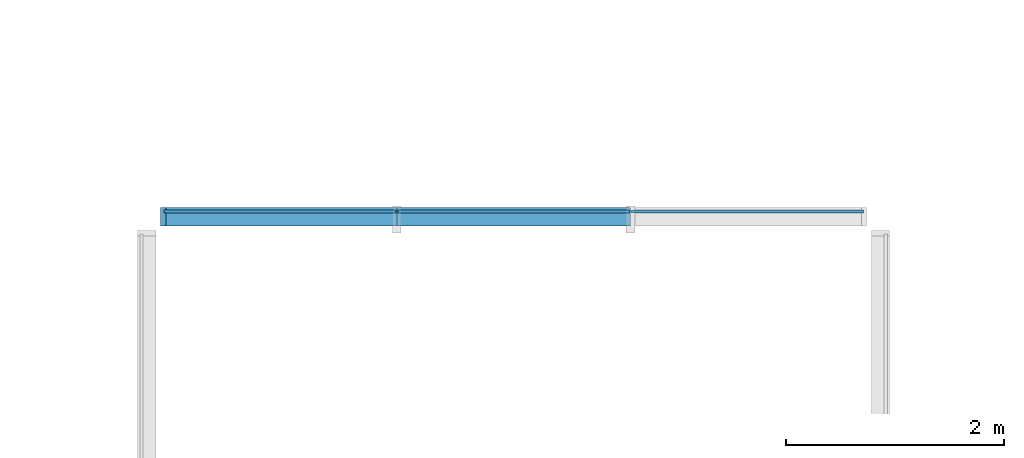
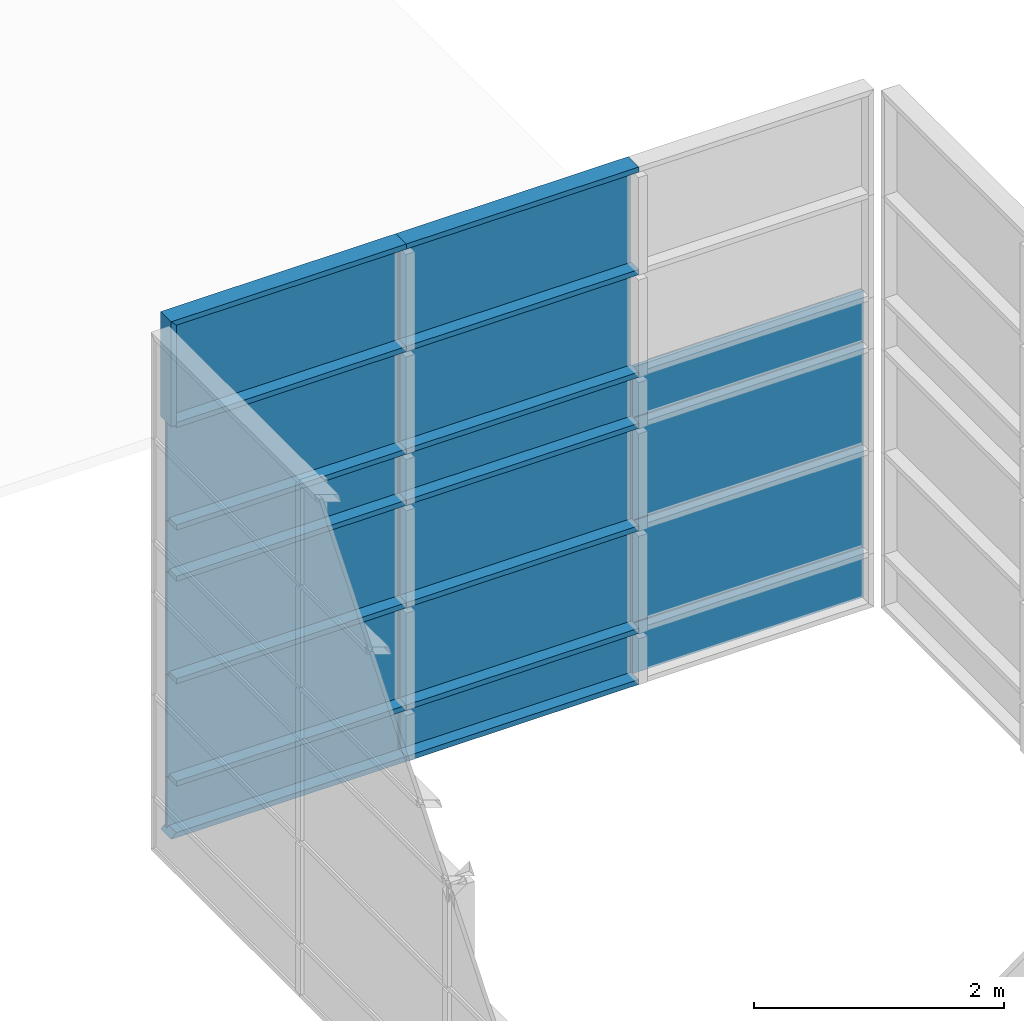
# One storey, part 9 of 19: 31 building element parts, 1 element without a shape of its own.
"""IFC4 building model written with IfcOpenShell, lengths in millimetres."""

from ifc_helpers import new_model, entity, si_unit, converted_unit, derived_unit, direction, frame, origin_with_axes, place, context, subcontext, project, spatial, triangles, material, element, aggregate, save


model = new_model("IFC4")

# Units and contexts
model_context = context("Model", 3, precision=1e-05, world=origin_with_axes(), true_north=direction((0.0, 1.0)))
body_context = subcontext(model_context, "Body", "Model", "MODEL_VIEW")
ifc_project = project(units=[si_unit("LENGTHUNIT", "METRE", prefix="MILLI"), si_unit("AREAUNIT", "SQUARE_METRE"), si_unit("VOLUMEUNIT", "CUBIC_METRE"), converted_unit("PLANEANGLEUNIT", "DEGREE", entity("IfcLengthMeasure", 0.017453), si_unit("PLANEANGLEUNIT", "RADIAN"), dimensions=[0, 0, 0, 0, 0, 0, 0]), si_unit("SOLIDANGLEUNIT", "STERADIAN"), si_unit("MASSUNIT", "GRAM"), si_unit("TIMEUNIT", "SECOND"), si_unit("THERMODYNAMICTEMPERATUREUNIT", "DEGREE_CELSIUS"), si_unit("LUMINOUSINTENSITYUNIT", "LUMEN"), si_unit("POWERUNIT", "WATT"), derived_unit("THERMALTRANSMITTANCEUNIT", [(si_unit("POWERUNIT", "WATT"), 1), (si_unit("THERMODYNAMICTEMPERATUREUNIT", "KELVIN"), -1), (si_unit("AREAUNIT", "SQUARE_METRE"), -1)])], contexts=[model_context])

# Site, building, storey
site_placement = place(None, origin_with_axes())
site = spatial("IfcSite", under=ifc_project, at=site_placement, Name="Default Site", CompositionType="ELEMENT")
building_placement = place(site_placement, origin_with_axes())
building = spatial("IfcBuilding", under=site, at=building_placement, Name="Default Building", CompositionType="ELEMENT")
storey_placement = place(building_placement, frame((0.0, 0.0, 3000.0), z_axis=(0.0, 0.0, 1.0), x_axis=(1.0, 0.0, 0.0)))
storey = spatial("IfcBuildingStorey", under=building, at=storey_placement, Name="EG - Story", CompositionType="ELEMENT", Elevation=3000.0)

# Curtain wall, building element parts
curtain_wall_placement = place(storey_placement, origin_with_axes())
curtain_wall = element("IfcCurtainWall", 1, at=curtain_wall_placement, inside=storey, Name="Fassade-012", PredefinedType="NOTDEFINED")
ifc_material_1 = material(Name="Normalglas")
building_element_part_1_placement = place(curtain_wall_placement, frame((74946.430489, -42520.999636, -4.5e-05), z_axis=(0.0, 0.0, 1.0), x_axis=(1.0, 0.0, 0.0)))
building_element_part_1 = element("IfcBuildingElementPart", 2, at=building_element_part_1_placement, material=ifc_material_1, Name="Normalglas", PredefinedType="NOTDEFINED", context=body_context, shape_type="Tessellation", body=[
    triangles([(-1063.007, -14.999, 495.0), (1068.008, -14.999, 495.0), (1068.008, 15.0, 495.0), (-1063.007, 15.0, 495.0), (-1063.007, -14.999, 5.0), (1068.008, -14.999, 5.0), (1068.008, 15.0, 5.0), (-1063.007, 15.0, 5.0)], [[1, 2, 3], [1, 3, 4], [1, 5, 6], [1, 6, 2], [2, 6, 7], [2, 7, 3], [4, 3, 7], [4, 7, 8], [5, 1, 4], [5, 4, 8], [6, 5, 8], [6, 8, 7]], closed=False),
])
building_element_part_2_placement = place(curtain_wall_placement, frame((74946.430489, -42520.999636, -4.5e-05), z_axis=(0.0, 0.0, 1.0), x_axis=(1.0, 0.0, 0.0)))
building_element_part_2 = element("IfcBuildingElementPart", 3, at=building_element_part_2_placement, material=ifc_material_1, Name="Normalglas", PredefinedType="NOTDEFINED", context=body_context, shape_type="Tessellation", body=[
    triangles([(-3209.023, -14.999, 495.0), (-1083.007, -14.999, 495.0), (-1083.007, 15.0, 495.0), (-3209.023, 15.0, 495.0), (-3209.023, -14.999, 5.0), (-1083.007, -14.999, 5.0), (-1083.007, 15.0, 5.0), (-3209.023, 15.0, 5.0)], [[1, 2, 3], [1, 3, 4], [1, 5, 6], [1, 6, 2], [2, 6, 7], [2, 7, 3], [4, 3, 7], [4, 7, 8], [5, 1, 4], [5, 4, 8], [6, 5, 8], [6, 8, 7]], closed=False),
])
building_element_part_3_placement = place(curtain_wall_placement, frame((74946.430489, -42520.999636, -4.5e-05), z_axis=(0.0, 0.0, 1.0), x_axis=(1.0, 0.0, 0.0)))
building_element_part_3 = element("IfcBuildingElementPart", 4, at=building_element_part_3_placement, material=ifc_material_1, Name="Normalglas", PredefinedType="NOTDEFINED", context=body_context, shape_type="Tessellation", body=[
    triangles([(-5360.038, -14.999, 495.0), (-3229.022, -14.999, 495.0), (-3229.022, 15.0, 495.0), (-5360.038, 15.0, 495.0), (-5360.038, -14.999, 5.0), (-3229.022, -14.999, 5.0), (-3229.022, 15.0, 5.0), (-5360.038, 15.0, 5.0)], [[1, 2, 3], [1, 3, 4], [1, 5, 6], [1, 6, 2], [2, 6, 7], [2, 7, 3], [4, 3, 7], [4, 7, 8], [5, 1, 4], [5, 4, 8], [6, 5, 8], [6, 8, 7]], closed=False),
])
building_element_part_4_placement = place(curtain_wall_placement, frame((74946.430489, -42520.999636, -4.5e-05), z_axis=(0.0, 0.0, 1.0), x_axis=(1.0, 0.0, 0.0)))
building_element_part_4 = element("IfcBuildingElementPart", 5, at=building_element_part_4_placement, material=ifc_material_1, Name="Normalglas", PredefinedType="NOTDEFINED", context=body_context, shape_type="Tessellation", body=[
    triangles([(-1063.007, -14.999, 1495.0), (1068.008, -14.999, 1495.0), (1068.008, 15.0, 1495.0), (-1063.007, 15.0, 1495.0), (-1063.007, -14.999, 505.0), (1068.008, -14.999, 505.0), (1068.008, 15.0, 505.0), (-1063.007, 15.0, 505.0)], [[1, 2, 3], [1, 3, 4], [1, 5, 6], [1, 6, 2], [2, 6, 7], [2, 7, 3], [4, 3, 7], [4, 7, 8], [5, 1, 4], [5, 4, 8], [6, 5, 8], [6, 8, 7]], closed=False),
])
building_element_part_5_placement = place(curtain_wall_placement, frame((74946.430489, -42520.999636, -4.5e-05), z_axis=(0.0, 0.0, 1.0), x_axis=(1.0, 0.0, 0.0)))
building_element_part_5 = element("IfcBuildingElementPart", 6, at=building_element_part_5_placement, material=ifc_material_1, Name="Normalglas", PredefinedType="NOTDEFINED", context=body_context, shape_type="Tessellation", body=[
    triangles([(-3209.023, -14.999, 1495.0), (-1083.007, -14.999, 1495.0), (-1083.007, 15.0, 1495.0), (-3209.023, 15.0, 1495.0), (-3209.023, -14.999, 505.0), (-1083.007, -14.999, 505.0), (-1083.007, 15.0, 505.0), (-3209.023, 15.0, 505.0)], [[1, 2, 3], [1, 3, 4], [1, 5, 6], [1, 6, 2], [2, 6, 7], [2, 7, 3], [4, 3, 7], [4, 7, 8], [5, 1, 4], [5, 4, 8], [6, 5, 8], [6, 8, 7]], closed=False),
])
building_element_part_6_placement = place(curtain_wall_placement, frame((74946.430489, -42520.999636, -4.5e-05), z_axis=(0.0, 0.0, 1.0), x_axis=(1.0, 0.0, 0.0)))
building_element_part_6 = element("IfcBuildingElementPart", 7, at=building_element_part_6_placement, material=ifc_material_1, Name="Normalglas", PredefinedType="NOTDEFINED", context=body_context, shape_type="Tessellation", body=[
    triangles([(-5360.038, -14.999, 1495.0), (-3229.022, -14.999, 1495.0), (-3229.022, 15.0, 1495.0), (-5360.038, 15.0, 1495.0), (-5360.038, -14.999, 505.0), (-3229.022, -14.999, 505.0), (-3229.022, 15.0, 505.0), (-5360.038, 15.0, 505.0)], [[1, 2, 3], [1, 3, 4], [1, 5, 6], [1, 6, 2], [2, 6, 7], [2, 7, 3], [4, 3, 7], [4, 7, 8], [5, 1, 4], [5, 4, 8], [6, 5, 8], [6, 8, 7]], closed=False),
])
building_element_part_7_placement = place(curtain_wall_placement, frame((74946.430489, -42520.999636, -4.5e-05), z_axis=(0.0, 0.0, 1.0), x_axis=(1.0, 0.0, 0.0)))
building_element_part_7 = element("IfcBuildingElementPart", 8, at=building_element_part_7_placement, material=ifc_material_1, Name="Normalglas", PredefinedType="NOTDEFINED", context=body_context, shape_type="Tessellation", body=[
    triangles([(-1063.007, -14.999, 2495.0), (1068.008, -14.999, 2495.0), (1068.008, 15.0, 2495.0), (-1063.007, 15.0, 2495.0), (-1063.007, -14.999, 1505.0), (1068.008, -14.999, 1505.0), (1068.008, 15.0, 1505.0), (-1063.007, 15.0, 1505.0)], [[1, 2, 3], [1, 3, 4], [1, 5, 6], [1, 6, 2], [2, 6, 7], [2, 7, 3], [4, 3, 7], [4, 7, 8], [5, 1, 4], [5, 4, 8], [6, 5, 8], [6, 8, 7]], closed=False),
])
building_element_part_8_placement = place(curtain_wall_placement, frame((74946.430489, -42520.999636, -4.5e-05), z_axis=(0.0, 0.0, 1.0), x_axis=(1.0, 0.0, 0.0)))
building_element_part_8 = element("IfcBuildingElementPart", 9, at=building_element_part_8_placement, material=ifc_material_1, Name="Normalglas", PredefinedType="NOTDEFINED", context=body_context, shape_type="Tessellation", body=[
    triangles([(-3209.023, -14.999, 2495.0), (-1083.007, -14.999, 2495.0), (-1083.007, 15.0, 2495.0), (-3209.023, 15.0, 2495.0), (-3209.023, -14.999, 1505.0), (-1083.007, -14.999, 1505.0), (-1083.007, 15.0, 1505.0), (-3209.023, 15.0, 1505.0)], [[1, 2, 3], [1, 3, 4], [1, 5, 6], [1, 6, 2], [2, 6, 7], [2, 7, 3], [4, 3, 7], [4, 7, 8], [5, 1, 4], [5, 4, 8], [6, 5, 8], [6, 8, 7]], closed=False),
])
building_element_part_9_placement = place(curtain_wall_placement, frame((74946.430489, -42520.999636, -4.5e-05), z_axis=(0.0, 0.0, 1.0), x_axis=(1.0, 0.0, 0.0)))
building_element_part_9 = element("IfcBuildingElementPart", 10, at=building_element_part_9_placement, material=ifc_material_1, Name="Normalglas", PredefinedType="NOTDEFINED", context=body_context, shape_type="Tessellation", body=[
    triangles([(-5360.038, -14.999, 2495.0), (-3229.022, -14.999, 2495.0), (-3229.022, 15.0, 2495.0), (-5360.038, 15.0, 2495.0), (-5360.038, -14.999, 1505.0), (-3229.022, -14.999, 1505.0), (-3229.022, 15.0, 1505.0), (-5360.038, 15.0, 1505.0)], [[1, 2, 3], [1, 3, 4], [1, 5, 6], [1, 6, 2], [2, 6, 7], [2, 7, 3], [4, 3, 7], [4, 7, 8], [5, 1, 4], [5, 4, 8], [6, 5, 8], [6, 8, 7]], closed=False),
])
building_element_part_10_placement = place(curtain_wall_placement, frame((74946.430489, -42520.999636, -4.5e-05), z_axis=(0.0, 0.0, 1.0), x_axis=(1.0, 0.0, 0.0)))
building_element_part_10 = element("IfcBuildingElementPart", 11, at=building_element_part_10_placement, material=ifc_material_1, Name="Normalglas", PredefinedType="NOTDEFINED", context=body_context, shape_type="Tessellation", body=[
    triangles([(-1063.007, -14.999, 2995.0), (1068.008, -14.999, 2995.0), (1068.008, 15.0, 2995.0), (-1063.007, 15.0, 2995.0), (-1063.007, -14.999, 2505.0), (1068.008, -14.999, 2505.0), (1068.008, 15.0, 2505.0), (-1063.007, 15.0, 2505.0)], [[1, 2, 3], [1, 3, 4], [1, 5, 6], [1, 6, 2], [2, 6, 7], [2, 7, 3], [4, 3, 7], [4, 7, 8], [5, 1, 4], [5, 4, 8], [6, 5, 8], [6, 8, 7]], closed=False),
])
building_element_part_11_placement = place(curtain_wall_placement, frame((74946.430489, -42520.999636, -4.5e-05), z_axis=(0.0, 0.0, 1.0), x_axis=(1.0, 0.0, 0.0)))
building_element_part_11 = element("IfcBuildingElementPart", 12, at=building_element_part_11_placement, material=ifc_material_1, Name="Normalglas", PredefinedType="NOTDEFINED", context=body_context, shape_type="Tessellation", body=[
    triangles([(-3209.023, -14.999, 2995.0), (-1083.007, -14.999, 2995.0), (-1083.007, 15.0, 2995.0), (-3209.023, 15.0, 2995.0), (-3209.023, -14.999, 2505.0), (-1083.007, -14.999, 2505.0), (-1083.007, 15.0, 2505.0), (-3209.023, 15.0, 2505.0)], [[1, 2, 3], [1, 3, 4], [1, 5, 6], [1, 6, 2], [2, 6, 7], [2, 7, 3], [4, 3, 7], [4, 7, 8], [5, 1, 4], [5, 4, 8], [6, 5, 8], [6, 8, 7]], closed=False),
])
building_element_part_12_placement = place(curtain_wall_placement, frame((74946.430489, -42520.999636, -4.5e-05), z_axis=(0.0, 0.0, 1.0), x_axis=(1.0, 0.0, 0.0)))
building_element_part_12 = element("IfcBuildingElementPart", 13, at=building_element_part_12_placement, material=ifc_material_1, Name="Normalglas", PredefinedType="NOTDEFINED", context=body_context, shape_type="Tessellation", body=[
    triangles([(-5360.038, -14.999, 2995.0), (-3229.022, -14.999, 2995.0), (-3229.022, 15.0, 2995.0), (-5360.038, 15.0, 2995.0), (-5360.038, -14.999, 2505.0), (-3229.022, -14.999, 2505.0), (-3229.022, 15.0, 2505.0), (-5360.038, 15.0, 2505.0)], [[1, 2, 3], [1, 3, 4], [1, 5, 6], [1, 6, 2], [2, 6, 7], [2, 7, 3], [4, 3, 7], [4, 7, 8], [5, 1, 4], [5, 4, 8], [6, 5, 8], [6, 8, 7]], closed=False),
])
building_element_part_13_placement = place(curtain_wall_placement, frame((74946.430489, -42520.999636, -4.5e-05), z_axis=(0.0, 0.0, 1.0), x_axis=(1.0, 0.0, 0.0)))
building_element_part_13 = element("IfcBuildingElementPart", 14, at=building_element_part_13_placement, material=ifc_material_1, Name="Normalglas", PredefinedType="NOTDEFINED", context=body_context, shape_type="Tessellation", body=[
    triangles([(-3209.023, -14.999, 3995.0), (-1083.007, -14.999, 3995.0), (-1083.007, 15.0, 3995.0), (-3209.023, 15.0, 3995.0), (-3209.023, -14.999, 3005.0), (-1083.007, -14.999, 3005.0), (-1083.007, 15.0, 3005.0), (-3209.023, 15.0, 3005.0)], [[1, 2, 3], [1, 3, 4], [1, 5, 6], [1, 6, 2], [2, 6, 7], [2, 7, 3], [4, 3, 7], [4, 7, 8], [5, 1, 4], [5, 4, 8], [6, 5, 8], [6, 8, 7]], closed=False),
])
building_element_part_14_placement = place(curtain_wall_placement, frame((74946.430489, -42520.999636, -4.5e-05), z_axis=(0.0, 0.0, 1.0), x_axis=(1.0, 0.0, 0.0)))
building_element_part_14 = element("IfcBuildingElementPart", 15, at=building_element_part_14_placement, material=ifc_material_1, Name="Normalglas", PredefinedType="NOTDEFINED", context=body_context, shape_type="Tessellation", body=[
    triangles([(-5360.038, -14.999, 3995.0), (-3229.022, -14.999, 3995.0), (-3229.022, 15.0, 3995.0), (-5360.038, 15.0, 3995.0), (-5360.038, -14.999, 3005.0), (-3229.022, -14.999, 3005.0), (-3229.022, 15.0, 3005.0), (-5360.038, 15.0, 3005.0)], [[1, 2, 3], [1, 3, 4], [1, 5, 6], [1, 6, 2], [2, 6, 7], [2, 7, 3], [4, 3, 7], [4, 7, 8], [5, 1, 4], [5, 4, 8], [6, 5, 8], [6, 8, 7]], closed=False),
])
building_element_part_15_placement = place(curtain_wall_placement, frame((74946.430489, -42520.999636, -4.5e-05), z_axis=(0.0, 0.0, 1.0), x_axis=(1.0, 0.0, 0.0)))
building_element_part_15 = element("IfcBuildingElementPart", 16, at=building_element_part_15_placement, material=ifc_material_1, Name="Normalglas", PredefinedType="NOTDEFINED", context=body_context, shape_type="Tessellation", body=[
    triangles([(-3209.023, -14.999, 4995.0), (-1083.007, -14.999, 4995.0), (-1083.007, 15.0, 4995.0), (-3209.023, 15.0, 4995.0), (-3209.023, -14.999, 4005.0), (-1083.007, -14.999, 4005.0), (-1083.007, 15.0, 4005.0), (-3209.023, 15.0, 4005.0)], [[1, 2, 3], [1, 3, 4], [1, 5, 6], [1, 6, 2], [2, 6, 7], [2, 7, 3], [4, 3, 7], [4, 7, 8], [5, 1, 4], [5, 4, 8], [6, 5, 8], [6, 8, 7]], closed=False),
])
building_element_part_16_placement = place(curtain_wall_placement, frame((74946.430489, -42520.999636, -4.5e-05), z_axis=(0.0, 0.0, 1.0), x_axis=(1.0, 0.0, 0.0)))
building_element_part_16 = element("IfcBuildingElementPart", 17, at=building_element_part_16_placement, material=ifc_material_1, Name="Normalglas", PredefinedType="NOTDEFINED", context=body_context, shape_type="Tessellation", body=[
    triangles([(-5360.038, -14.999, 4995.0), (-3229.022, -14.999, 4995.0), (-3229.022, 15.0, 4995.0), (-5360.038, 15.0, 4995.0), (-5360.038, -14.999, 4005.0), (-3229.022, -14.999, 4005.0), (-3229.022, 15.0, 4005.0), (-5360.038, 15.0, 4005.0)], [[1, 2, 3], [1, 3, 4], [1, 5, 6], [1, 6, 2], [2, 6, 7], [2, 7, 3], [4, 3, 7], [4, 7, 8], [5, 1, 4], [5, 4, 8], [6, 5, 8], [6, 8, 7]], closed=False),
])
ifc_material_2 = material(Name="Blech")
building_element_part_17_placement = place(curtain_wall_placement, frame((74946.430489, -42520.999636, -4.5e-05), z_axis=(0.0, 0.0, 1.0), x_axis=(1.0, 0.0, 0.0)))
building_element_part_17 = element("IfcBuildingElementPart", 18, at=building_element_part_17_placement, material=ifc_material_2, Name="Blech", PredefinedType="NOTDEFINED", context=body_context, shape_type="Tessellation", body=[
    triangles([(-3219.022, 15.0, 25.0), (-3219.022, 15.0, 5.0), (-3219.022, 35.0, -24.999), (-3219.022, -14.999, 5.0), (-3219.022, -132.999, 25.0), (-3219.022, -14.999, 25.0), (-3219.022, -132.999, -24.999), (-3219.022, 35.0, 25.0), (-1073.007, -14.999, 5.0), (-1073.007, 15.0, 5.0), (-1073.007, 15.0, 25.0), (-1073.007, 35.0, 25.0), (-1073.007, 35.0, -24.999), (-1073.007, -132.999, -24.999), (-1073.007, -132.999, 25.0), (-1073.007, -14.999, 25.0)], [[1, 2, 3], [3, 2, 4], [3, 4, 5], [5, 4, 6], [3, 5, 7], [1, 3, 8], [2, 4, 9], [2, 9, 10], [11, 1, 2], [11, 2, 10], [1, 11, 12], [1, 12, 8], [13, 3, 8], [13, 8, 12], [14, 7, 3], [14, 3, 13], [15, 5, 7], [15, 7, 14], [16, 6, 5], [16, 5, 15], [4, 6, 16], [4, 16, 9], [13, 12, 11], [13, 11, 10], [13, 10, 9], [13, 9, 15], [13, 15, 14], [16, 15, 9]], closed=False),
])
building_element_part_18_placement = place(curtain_wall_placement, frame((74946.430489, -42520.999636, -4.5e-05), z_axis=(0.0, 0.0, 1.0), x_axis=(1.0, 0.0, 0.0)))
building_element_part_18 = element("IfcBuildingElementPart", 19, at=building_element_part_18_placement, material=ifc_material_2, Name="Blech", PredefinedType="NOTDEFINED", context=body_context, shape_type="Tessellation", body=[
    triangles([(-5360.038, 15.0, 5.0), (-5360.038, -14.999, 5.0), (-5390.038, -132.999, -24.999), (-5390.038, 35.0, -24.999), (-5340.038, 35.0, 25.0), (-5340.038, 15.0, 25.0), (-5340.038, -132.999, 25.0), (-5340.038, -14.999, 25.0), (-3219.022, -14.999, 5.0), (-3219.022, 15.0, 5.0), (-3219.022, 15.0, 25.0), (-3219.022, 35.0, 25.0), (-3219.022, 35.0, -24.999), (-3219.022, -132.999, -24.999), (-3219.022, -132.999, 25.0), (-3219.022, -14.999, 25.0)], [[1, 2, 3], [1, 3, 4], [1, 4, 5], [1, 5, 6], [7, 3, 2], [7, 2, 8], [1, 2, 9], [1, 9, 10], [11, 6, 1], [11, 1, 10], [6, 11, 12], [6, 12, 5], [13, 4, 5], [13, 5, 12], [14, 3, 4], [14, 4, 13], [15, 7, 3], [15, 3, 14], [16, 8, 7], [16, 7, 15], [2, 8, 16], [2, 16, 9], [13, 12, 11], [13, 11, 10], [13, 10, 9], [13, 9, 15], [13, 15, 14], [16, 15, 9]], closed=False),
])
building_element_part_19_placement = place(curtain_wall_placement, frame((74946.430489, -42520.999636, -4.5e-05), z_axis=(0.0, 0.0, 1.0), x_axis=(1.0, 0.0, 0.0)))
building_element_part_19 = element("IfcBuildingElementPart", 20, at=building_element_part_19_placement, material=ifc_material_2, Name="Blech", PredefinedType="NOTDEFINED", context=body_context, shape_type="Tessellation", body=[
    triangles([(-3219.022, 35.0, 475.0), (-3219.022, 15.0, 475.0), (-3219.022, 35.0, 525.0), (-3219.022, 15.0, 495.0), (-3219.022, 15.0, 505.0), (-3219.022, -14.999, 495.0), (-3219.022, -14.999, 505.0), (-3219.022, -14.999, 525.0), (-3219.022, -14.999, 475.0), (-3219.022, -132.999, 475.0), (-3219.022, -132.999, 525.0), (-3219.022, 15.0, 525.0), (-1073.007, -14.999, 495.0), (-1073.007, -14.999, 475.0), (-1073.007, -132.999, 475.0), (-1073.007, -132.999, 525.0), (-1073.007, -14.999, 525.0), (-1073.007, -14.999, 505.0), (-1073.007, 15.0, 505.0), (-1073.007, 15.0, 525.0), (-1073.007, 35.0, 525.0), (-1073.007, 35.0, 475.0), (-1073.007, 15.0, 475.0), (-1073.007, 15.0, 495.0)], [[1, 2, 3], [3, 2, 4], [3, 4, 5], [5, 4, 6], [5, 6, 7], [8, 9, 10], [8, 10, 11], [3, 5, 12], [9, 6, 13], [9, 13, 14], [9, 14, 15], [9, 15, 10], [11, 10, 15], [11, 15, 16], [8, 11, 16], [8, 16, 17], [8, 17, 18], [8, 18, 7], [7, 18, 19], [7, 19, 5], [12, 5, 19], [12, 19, 20], [20, 21, 3], [20, 3, 12], [1, 3, 21], [1, 21, 22], [23, 2, 1], [23, 1, 22], [4, 2, 23], [4, 23, 24], [6, 4, 24], [6, 24, 13], [21, 20, 22], [22, 20, 19], [22, 19, 24], [24, 19, 18], [24, 18, 13], [14, 17, 16], [14, 16, 15], [22, 24, 23]], closed=False),
])
building_element_part_20_placement = place(curtain_wall_placement, frame((74946.430489, -42520.999636, -4.5e-05), z_axis=(0.0, 0.0, 1.0), x_axis=(1.0, 0.0, 0.0)))
building_element_part_20 = element("IfcBuildingElementPart", 21, at=building_element_part_20_placement, material=ifc_material_2, Name="Blech", PredefinedType="NOTDEFINED", context=body_context, shape_type="Tessellation", body=[
    triangles([(-5340.038, 35.0, 475.0), (-5340.038, 15.0, 475.0), (-5340.038, 35.0, 525.0), (-5340.038, 15.0, 495.0), (-5340.038, 15.0, 505.0), (-5340.038, -14.999, 495.0), (-5340.038, -14.999, 505.0), (-5340.038, -14.999, 525.0), (-5340.038, -14.999, 475.0), (-5340.038, -132.999, 475.0), (-5340.038, -132.999, 525.0), (-5340.038, 15.0, 525.0), (-3219.022, -14.999, 495.0), (-3219.022, -14.999, 475.0), (-3219.022, -132.999, 475.0), (-3219.022, -132.999, 525.0), (-3219.022, -14.999, 525.0), (-3219.022, -14.999, 505.0), (-3219.022, 15.0, 505.0), (-3219.022, 15.0, 525.0), (-3219.022, 35.0, 525.0), (-3219.022, 35.0, 475.0), (-3219.022, 15.0, 475.0), (-3219.022, 15.0, 495.0)], [[1, 2, 3], [3, 2, 4], [3, 4, 5], [5, 4, 6], [5, 6, 7], [8, 9, 10], [8, 10, 11], [3, 5, 12], [9, 6, 13], [9, 13, 14], [9, 14, 15], [9, 15, 10], [11, 10, 15], [11, 15, 16], [8, 11, 16], [8, 16, 17], [8, 17, 18], [8, 18, 7], [7, 18, 19], [7, 19, 5], [12, 5, 19], [12, 19, 20], [20, 21, 3], [20, 3, 12], [1, 3, 21], [1, 21, 22], [23, 2, 1], [23, 1, 22], [4, 2, 23], [4, 23, 24], [6, 4, 24], [6, 24, 13], [21, 20, 22], [22, 20, 19], [22, 19, 24], [24, 19, 18], [24, 18, 13], [14, 17, 16], [14, 16, 15], [22, 24, 23]], closed=False),
])
building_element_part_21_placement = place(curtain_wall_placement, frame((74946.430489, -42520.999636, -4.5e-05), z_axis=(0.0, 0.0, 1.0), x_axis=(1.0, 0.0, 0.0)))
building_element_part_21 = element("IfcBuildingElementPart", 22, at=building_element_part_21_placement, material=ifc_material_2, Name="Blech", PredefinedType="NOTDEFINED", context=body_context, shape_type="Tessellation", body=[
    triangles([(-3219.022, 35.0, 1475.0), (-3219.022, 15.0, 1475.0), (-3219.022, 35.0, 1525.0), (-3219.022, 15.0, 1495.0), (-3219.022, 15.0, 1505.0), (-3219.022, -14.999, 1495.0), (-3219.022, -14.999, 1505.0), (-3219.022, -14.999, 1525.0), (-3219.022, -14.999, 1475.0), (-3219.022, -132.999, 1475.0), (-3219.022, -132.999, 1525.0), (-3219.022, 15.0, 1525.0), (-1073.007, -14.999, 1495.0), (-1073.007, -14.999, 1475.0), (-1073.007, -132.999, 1475.0), (-1073.007, -132.999, 1525.0), (-1073.007, -14.999, 1525.0), (-1073.007, -14.999, 1505.0), (-1073.007, 15.0, 1505.0), (-1073.007, 15.0, 1525.0), (-1073.007, 35.0, 1525.0), (-1073.007, 35.0, 1475.0), (-1073.007, 15.0, 1475.0), (-1073.007, 15.0, 1495.0)], [[1, 2, 3], [3, 2, 4], [3, 4, 5], [5, 4, 6], [5, 6, 7], [8, 9, 10], [8, 10, 11], [3, 5, 12], [9, 6, 13], [9, 13, 14], [9, 14, 15], [9, 15, 10], [11, 10, 15], [11, 15, 16], [8, 11, 16], [8, 16, 17], [8, 17, 18], [8, 18, 7], [7, 18, 19], [7, 19, 5], [12, 5, 19], [12, 19, 20], [20, 21, 3], [20, 3, 12], [1, 3, 21], [1, 21, 22], [23, 2, 1], [23, 1, 22], [4, 2, 23], [4, 23, 24], [6, 4, 24], [6, 24, 13], [21, 20, 22], [22, 20, 19], [22, 19, 24], [24, 19, 18], [24, 18, 13], [14, 17, 16], [14, 16, 15], [22, 24, 23]], closed=False),
])
building_element_part_22_placement = place(curtain_wall_placement, frame((74946.430489, -42520.999636, -4.5e-05), z_axis=(0.0, 0.0, 1.0), x_axis=(1.0, 0.0, 0.0)))
building_element_part_22 = element("IfcBuildingElementPart", 23, at=building_element_part_22_placement, material=ifc_material_2, Name="Blech", PredefinedType="NOTDEFINED", context=body_context, shape_type="Tessellation", body=[
    triangles([(-5340.038, 35.0, 1475.0), (-5340.038, 15.0, 1475.0), (-5340.038, 35.0, 1525.0), (-5340.038, 15.0, 1495.0), (-5340.038, 15.0, 1505.0), (-5340.038, -14.999, 1495.0), (-5340.038, -14.999, 1505.0), (-5340.038, -14.999, 1525.0), (-5340.038, -14.999, 1475.0), (-5340.038, -132.999, 1475.0), (-5340.038, -132.999, 1525.0), (-5340.038, 15.0, 1525.0), (-3219.022, -14.999, 1495.0), (-3219.022, -14.999, 1475.0), (-3219.022, -132.999, 1475.0), (-3219.022, -132.999, 1525.0), (-3219.022, -14.999, 1525.0), (-3219.022, -14.999, 1505.0), (-3219.022, 15.0, 1505.0), (-3219.022, 15.0, 1525.0), (-3219.022, 35.0, 1525.0), (-3219.022, 35.0, 1475.0), (-3219.022, 15.0, 1475.0), (-3219.022, 15.0, 1495.0)], [[1, 2, 3], [3, 2, 4], [3, 4, 5], [5, 4, 6], [5, 6, 7], [8, 9, 10], [8, 10, 11], [3, 5, 12], [9, 6, 13], [9, 13, 14], [9, 14, 15], [9, 15, 10], [11, 10, 15], [11, 15, 16], [8, 11, 16], [8, 16, 17], [8, 17, 18], [8, 18, 7], [7, 18, 19], [7, 19, 5], [12, 5, 19], [12, 19, 20], [20, 21, 3], [20, 3, 12], [1, 3, 21], [1, 21, 22], [23, 2, 1], [23, 1, 22], [4, 2, 23], [4, 23, 24], [6, 4, 24], [6, 24, 13], [21, 20, 22], [22, 20, 19], [22, 19, 24], [24, 19, 18], [24, 18, 13], [14, 17, 16], [14, 16, 15], [22, 24, 23]], closed=False),
])
building_element_part_23_placement = place(curtain_wall_placement, frame((74946.430489, -42520.999636, -4.5e-05), z_axis=(0.0, 0.0, 1.0), x_axis=(1.0, 0.0, 0.0)))
building_element_part_23 = element("IfcBuildingElementPart", 24, at=building_element_part_23_placement, material=ifc_material_2, Name="Blech", PredefinedType="NOTDEFINED", context=body_context, shape_type="Tessellation", body=[
    triangles([(-3219.022, 35.0, 2475.0), (-3219.022, 15.0, 2475.0), (-3219.022, 35.0, 2525.0), (-3219.022, 15.0, 2495.0), (-3219.022, 15.0, 2505.0), (-3219.022, -14.999, 2495.0), (-3219.022, -14.999, 2505.0), (-3219.022, -14.999, 2525.0), (-3219.022, -14.999, 2475.0), (-3219.022, -132.999, 2475.0), (-3219.022, -132.999, 2525.0), (-3219.022, 15.0, 2525.0), (-1073.007, -14.999, 2495.0), (-1073.007, -14.999, 2475.0), (-1073.007, -132.999, 2475.0), (-1073.007, -132.999, 2525.0), (-1073.007, -14.999, 2525.0), (-1073.007, -14.999, 2505.0), (-1073.007, 15.0, 2505.0), (-1073.007, 15.0, 2525.0), (-1073.007, 35.0, 2525.0), (-1073.007, 35.0, 2475.0), (-1073.007, 15.0, 2475.0), (-1073.007, 15.0, 2495.0)], [[1, 2, 3], [3, 2, 4], [3, 4, 5], [5, 4, 6], [5, 6, 7], [8, 9, 10], [8, 10, 11], [3, 5, 12], [9, 6, 13], [9, 13, 14], [9, 14, 15], [9, 15, 10], [11, 10, 15], [11, 15, 16], [8, 11, 16], [8, 16, 17], [8, 17, 18], [8, 18, 7], [7, 18, 19], [7, 19, 5], [12, 5, 19], [12, 19, 20], [20, 21, 3], [20, 3, 12], [1, 3, 21], [1, 21, 22], [23, 2, 1], [23, 1, 22], [4, 2, 23], [4, 23, 24], [6, 4, 24], [6, 24, 13], [21, 20, 22], [22, 20, 19], [22, 19, 24], [24, 19, 18], [24, 18, 13], [14, 17, 16], [14, 16, 15], [22, 24, 23]], closed=False),
])
building_element_part_24_placement = place(curtain_wall_placement, frame((74946.430489, -42520.999636, -4.5e-05), z_axis=(0.0, 0.0, 1.0), x_axis=(1.0, 0.0, 0.0)))
building_element_part_24 = element("IfcBuildingElementPart", 25, at=building_element_part_24_placement, material=ifc_material_2, Name="Blech", PredefinedType="NOTDEFINED", context=body_context, shape_type="Tessellation", body=[
    triangles([(-5340.038, 35.0, 2475.0), (-5340.038, 15.0, 2475.0), (-5340.038, 35.0, 2525.0), (-5340.038, 15.0, 2495.0), (-5340.038, 15.0, 2505.0), (-5340.038, -14.999, 2495.0), (-5340.038, -14.999, 2505.0), (-5340.038, -14.999, 2525.0), (-5340.038, -14.999, 2475.0), (-5340.038, -132.999, 2475.0), (-5340.038, -132.999, 2525.0), (-5340.038, 15.0, 2525.0), (-3219.022, -14.999, 2495.0), (-3219.022, -14.999, 2475.0), (-3219.022, -132.999, 2475.0), (-3219.022, -132.999, 2525.0), (-3219.022, -14.999, 2525.0), (-3219.022, -14.999, 2505.0), (-3219.022, 15.0, 2505.0), (-3219.022, 15.0, 2525.0), (-3219.022, 35.0, 2525.0), (-3219.022, 35.0, 2475.0), (-3219.022, 15.0, 2475.0), (-3219.022, 15.0, 2495.0)], [[1, 2, 3], [3, 2, 4], [3, 4, 5], [5, 4, 6], [5, 6, 7], [8, 9, 10], [8, 10, 11], [3, 5, 12], [9, 6, 13], [9, 13, 14], [9, 14, 15], [9, 15, 10], [11, 10, 15], [11, 15, 16], [8, 11, 16], [8, 16, 17], [8, 17, 18], [8, 18, 7], [7, 18, 19], [7, 19, 5], [12, 5, 19], [12, 19, 20], [20, 21, 3], [20, 3, 12], [1, 3, 21], [1, 21, 22], [23, 2, 1], [23, 1, 22], [4, 2, 23], [4, 23, 24], [6, 4, 24], [6, 24, 13], [21, 20, 22], [22, 20, 19], [22, 19, 24], [24, 19, 18], [24, 18, 13], [14, 17, 16], [14, 16, 15], [22, 24, 23]], closed=False),
])
building_element_part_25_placement = place(curtain_wall_placement, frame((74946.430489, -42520.999636, -4.5e-05), z_axis=(0.0, 0.0, 1.0), x_axis=(1.0, 0.0, 0.0)))
building_element_part_25 = element("IfcBuildingElementPart", 26, at=building_element_part_25_placement, material=ifc_material_2, Name="Blech", PredefinedType="NOTDEFINED", context=body_context, shape_type="Tessellation", body=[
    triangles([(-3219.022, 35.0, 2975.0), (-3219.022, 15.0, 2975.0), (-3219.022, 35.0, 3025.0), (-3219.022, 15.0, 2995.0), (-3219.022, 15.0, 3005.0), (-3219.022, -14.999, 2995.0), (-3219.022, -14.999, 3005.0), (-3219.022, -14.999, 3025.0), (-3219.022, -14.999, 2975.0), (-3219.022, -132.999, 2975.0), (-3219.022, -132.999, 3025.0), (-3219.022, 15.0, 3025.0), (-1073.007, -14.999, 2995.0), (-1073.007, -14.999, 2975.0), (-1073.007, -132.999, 2975.0), (-1073.007, -132.999, 3025.0), (-1073.007, -14.999, 3025.0), (-1073.007, -14.999, 3005.0), (-1073.007, 15.0, 3005.0), (-1073.007, 15.0, 3025.0), (-1073.007, 35.0, 3025.0), (-1073.007, 35.0, 2975.0), (-1073.007, 15.0, 2975.0), (-1073.007, 15.0, 2995.0)], [[1, 2, 3], [3, 2, 4], [3, 4, 5], [5, 4, 6], [5, 6, 7], [8, 9, 10], [8, 10, 11], [3, 5, 12], [9, 6, 13], [9, 13, 14], [9, 14, 15], [9, 15, 10], [11, 10, 15], [11, 15, 16], [8, 11, 16], [8, 16, 17], [8, 17, 18], [8, 18, 7], [7, 18, 19], [7, 19, 5], [12, 5, 19], [12, 19, 20], [20, 21, 3], [20, 3, 12], [1, 3, 21], [1, 21, 22], [23, 2, 1], [23, 1, 22], [4, 2, 23], [4, 23, 24], [6, 4, 24], [6, 24, 13], [21, 20, 22], [22, 20, 19], [22, 19, 24], [24, 19, 18], [24, 18, 13], [14, 17, 16], [14, 16, 15], [22, 24, 23]], closed=False),
])
building_element_part_26_placement = place(curtain_wall_placement, frame((74946.430489, -42520.999636, -4.5e-05), z_axis=(0.0, 0.0, 1.0), x_axis=(1.0, 0.0, 0.0)))
building_element_part_26 = element("IfcBuildingElementPart", 27, at=building_element_part_26_placement, material=ifc_material_2, Name="Blech", PredefinedType="NOTDEFINED", context=body_context, shape_type="Tessellation", body=[
    triangles([(-5340.038, 35.0, 2975.0), (-5340.038, 15.0, 2975.0), (-5340.038, 35.0, 3025.0), (-5340.038, 15.0, 2995.0), (-5340.038, 15.0, 3005.0), (-5340.038, -14.999, 2995.0), (-5340.038, -14.999, 3005.0), (-5340.038, -14.999, 3025.0), (-5340.038, -14.999, 2975.0), (-5340.038, -132.999, 2975.0), (-5340.038, -132.999, 3025.0), (-5340.038, 15.0, 3025.0), (-3219.022, -14.999, 2995.0), (-3219.022, -14.999, 2975.0), (-3219.022, -132.999, 2975.0), (-3219.022, -132.999, 3025.0), (-3219.022, -14.999, 3025.0), (-3219.022, -14.999, 3005.0), (-3219.022, 15.0, 3005.0), (-3219.022, 15.0, 3025.0), (-3219.022, 35.0, 3025.0), (-3219.022, 35.0, 2975.0), (-3219.022, 15.0, 2975.0), (-3219.022, 15.0, 2995.0)], [[1, 2, 3], [3, 2, 4], [3, 4, 5], [5, 4, 6], [5, 6, 7], [8, 9, 10], [8, 10, 11], [3, 5, 12], [9, 6, 13], [9, 13, 14], [9, 14, 15], [9, 15, 10], [11, 10, 15], [11, 15, 16], [8, 11, 16], [8, 16, 17], [8, 17, 18], [8, 18, 7], [7, 18, 19], [7, 19, 5], [12, 5, 19], [12, 19, 20], [20, 21, 3], [20, 3, 12], [1, 3, 21], [1, 21, 22], [23, 2, 1], [23, 1, 22], [4, 2, 23], [4, 23, 24], [6, 4, 24], [6, 24, 13], [21, 20, 22], [22, 20, 19], [22, 19, 24], [24, 19, 18], [24, 18, 13], [14, 17, 16], [14, 16, 15], [22, 24, 23]], closed=False),
])
building_element_part_27_placement = place(curtain_wall_placement, frame((74946.430489, -42520.999636, -4.5e-05), z_axis=(0.0, 0.0, 1.0), x_axis=(1.0, 0.0, 0.0)))
building_element_part_27 = element("IfcBuildingElementPart", 28, at=building_element_part_27_placement, material=ifc_material_2, Name="Blech", PredefinedType="NOTDEFINED", context=body_context, shape_type="Tessellation", body=[
    triangles([(-3219.022, 35.0, 3975.0), (-3219.022, 15.0, 3975.0), (-3219.022, 35.0, 4025.0), (-3219.022, 15.0, 3995.0), (-3219.022, 15.0, 4005.0), (-3219.022, -14.999, 3995.0), (-3219.022, -14.999, 4005.0), (-3219.022, -14.999, 4025.0), (-3219.022, -14.999, 3975.0), (-3219.022, -132.999, 3975.0), (-3219.022, -132.999, 4025.0), (-3219.022, 15.0, 4025.0), (-1073.007, -14.999, 3995.0), (-1073.007, -14.999, 3975.0), (-1073.007, -132.999, 3975.0), (-1073.007, -132.999, 4025.0), (-1073.007, -14.999, 4025.0), (-1073.007, -14.999, 4005.0), (-1073.007, 15.0, 4005.0), (-1073.007, 15.0, 4025.0), (-1073.007, 35.0, 4025.0), (-1073.007, 35.0, 3975.0), (-1073.007, 15.0, 3975.0), (-1073.007, 15.0, 3995.0)], [[1, 2, 3], [3, 2, 4], [3, 4, 5], [5, 4, 6], [5, 6, 7], [8, 9, 10], [8, 10, 11], [3, 5, 12], [9, 6, 13], [9, 13, 14], [9, 14, 15], [9, 15, 10], [11, 10, 15], [11, 15, 16], [8, 11, 16], [8, 16, 17], [8, 17, 18], [8, 18, 7], [7, 18, 19], [7, 19, 5], [12, 5, 19], [12, 19, 20], [20, 21, 3], [20, 3, 12], [1, 3, 21], [1, 21, 22], [23, 2, 1], [23, 1, 22], [4, 2, 23], [4, 23, 24], [6, 4, 24], [6, 24, 13], [21, 20, 22], [22, 20, 19], [22, 19, 24], [24, 19, 18], [24, 18, 13], [14, 17, 16], [14, 16, 15], [22, 24, 23]], closed=False),
])
building_element_part_28_placement = place(curtain_wall_placement, frame((74946.430489, -42520.999636, -4.5e-05), z_axis=(0.0, 0.0, 1.0), x_axis=(1.0, 0.0, 0.0)))
building_element_part_28 = element("IfcBuildingElementPart", 29, at=building_element_part_28_placement, material=ifc_material_2, Name="Blech", PredefinedType="NOTDEFINED", context=body_context, shape_type="Tessellation", body=[
    triangles([(-3219.022, 35.0, 5025.0), (-3219.022, 35.0, 4975.0), (-3219.022, 15.0, 4975.0), (-3219.022, 15.0, 4995.0), (-3219.022, -14.999, 4995.0), (-3219.022, -132.999, 4975.0), (-3219.022, -132.999, 5025.0), (-3219.022, -14.999, 4975.0), (-1073.007, -14.999, 4995.0), (-1073.007, -14.999, 4975.0), (-1073.007, -132.999, 4975.0), (-1073.007, -132.999, 5025.0), (-1073.007, 35.0, 5025.0), (-1073.007, 35.0, 4975.0), (-1073.007, 15.0, 4975.0), (-1073.007, 15.0, 4995.0)], [[1, 2, 3], [1, 3, 4], [1, 4, 5], [1, 5, 6], [1, 6, 7], [8, 6, 5], [5, 9, 10], [5, 10, 8], [10, 11, 6], [10, 6, 8], [11, 12, 7], [11, 7, 6], [12, 13, 1], [12, 1, 7], [13, 14, 2], [13, 2, 1], [3, 2, 14], [3, 14, 15], [15, 16, 4], [15, 4, 3], [4, 16, 9], [4, 9, 5], [15, 16, 13], [13, 16, 9], [13, 9, 11], [11, 9, 10], [13, 11, 12], [15, 13, 14]], closed=False),
])
building_element_part_29_placement = place(curtain_wall_placement, frame((74946.430489, -42520.999636, -4.5e-05), z_axis=(0.0, 0.0, 1.0), x_axis=(1.0, 0.0, 0.0)))
building_element_part_29 = element("IfcBuildingElementPart", 30, at=building_element_part_29_placement, material=ifc_material_2, Name="Blech", PredefinedType="NOTDEFINED", context=body_context, shape_type="Tessellation", body=[
    triangles([(-5340.038, 35.0, 3975.0), (-5340.038, 15.0, 3975.0), (-5340.038, 35.0, 4025.0), (-5340.038, 15.0, 3995.0), (-5340.038, 15.0, 4005.0), (-5340.038, -14.999, 3995.0), (-5340.038, -14.999, 4005.0), (-5340.038, -14.999, 4025.0), (-5340.038, -14.999, 3975.0), (-5340.038, -132.999, 3975.0), (-5340.038, -132.999, 4025.0), (-5340.038, 15.0, 4025.0), (-3219.022, -14.999, 3995.0), (-3219.022, -14.999, 3975.0), (-3219.022, -132.999, 3975.0), (-3219.022, -132.999, 4025.0), (-3219.022, -14.999, 4025.0), (-3219.022, -14.999, 4005.0), (-3219.022, 15.0, 4005.0), (-3219.022, 15.0, 4025.0), (-3219.022, 35.0, 4025.0), (-3219.022, 35.0, 3975.0), (-3219.022, 15.0, 3975.0), (-3219.022, 15.0, 3995.0)], [[1, 2, 3], [3, 2, 4], [3, 4, 5], [5, 4, 6], [5, 6, 7], [8, 9, 10], [8, 10, 11], [3, 5, 12], [9, 6, 13], [9, 13, 14], [9, 14, 15], [9, 15, 10], [11, 10, 15], [11, 15, 16], [8, 11, 16], [8, 16, 17], [8, 17, 18], [8, 18, 7], [7, 18, 19], [7, 19, 5], [12, 5, 19], [12, 19, 20], [20, 21, 3], [20, 3, 12], [1, 3, 21], [1, 21, 22], [23, 2, 1], [23, 1, 22], [4, 2, 23], [4, 23, 24], [6, 4, 24], [6, 24, 13], [21, 20, 22], [22, 20, 19], [22, 19, 24], [24, 19, 18], [24, 18, 13], [14, 17, 16], [14, 16, 15], [22, 24, 23]], closed=False),
])
building_element_part_30_placement = place(curtain_wall_placement, frame((74946.430489, -42520.999636, -4.5e-05), z_axis=(0.0, 0.0, 1.0), x_axis=(1.0, 0.0, 0.0)))
building_element_part_30 = element("IfcBuildingElementPart", 31, at=building_element_part_30_placement, material=ifc_material_2, Name="Blech", PredefinedType="NOTDEFINED", context=body_context, shape_type="Tessellation", body=[
    triangles([(-5340.038, 15.0, 4975.0), (-5360.038, 15.0, 4995.0), (-5390.038, 35.0, 5025.0), (-5360.038, -14.999, 4995.0), (-5340.038, -132.999, 4975.0), (-5340.038, -14.999, 4975.0), (-5390.038, -132.999, 5025.0), (-5340.038, 35.0, 4975.0), (-5360.038, -14.999, 4000.0), (-5360.038, 15.0, 4000.0), (-5340.038, 15.0, 4000.0), (-5340.038, 35.0, 4000.0), (-5390.038, 35.0, 4000.0), (-5390.038, -132.999, 4000.0), (-5340.038, -132.999, 4000.0), (-5340.038, -14.999, 4000.0)], [[1, 2, 3], [3, 2, 4], [3, 4, 5], [5, 4, 6], [3, 5, 7], [1, 3, 8], [2, 4, 9], [2, 9, 10], [11, 1, 2], [11, 2, 10], [1, 11, 12], [1, 12, 8], [13, 3, 8], [13, 8, 12], [14, 7, 3], [14, 3, 13], [15, 5, 7], [15, 7, 14], [16, 6, 5], [16, 5, 15], [4, 6, 16], [4, 16, 9], [16, 15, 9], [9, 15, 14], [9, 14, 10], [10, 14, 13], [10, 13, 12], [10, 12, 11]], closed=False),
])
building_element_part_31_placement = place(curtain_wall_placement, frame((74946.430489, -42520.999636, -4.5e-05), z_axis=(0.0, 0.0, 1.0), x_axis=(1.0, 0.0, 0.0)))
building_element_part_31 = element("IfcBuildingElementPart", 32, at=building_element_part_31_placement, material=ifc_material_2, Name="Blech", PredefinedType="NOTDEFINED", context=body_context, shape_type="Tessellation", body=[
    triangles([(-5390.038, 35.0, 5025.0), (-5340.038, 35.0, 4975.0), (-5340.038, 15.0, 4975.0), (-5360.038, 15.0, 4995.0), (-5360.038, -14.999, 4995.0), (-5340.038, -132.999, 4975.0), (-5390.038, -132.999, 5025.0), (-5340.038, -14.999, 4975.0), (-3219.022, -14.999, 4995.0), (-3219.022, -14.999, 4975.0), (-3219.022, -132.999, 4975.0), (-3219.022, -132.999, 5025.0), (-3219.022, 35.0, 5025.0), (-3219.022, 35.0, 4975.0), (-3219.022, 15.0, 4975.0), (-3219.022, 15.0, 4995.0)], [[1, 2, 3], [1, 3, 4], [1, 4, 5], [1, 5, 6], [1, 6, 7], [8, 6, 5], [5, 9, 10], [5, 10, 8], [10, 11, 6], [10, 6, 8], [11, 12, 7], [11, 7, 6], [12, 13, 1], [12, 1, 7], [13, 14, 2], [13, 2, 1], [3, 2, 14], [3, 14, 15], [15, 16, 4], [15, 4, 3], [4, 16, 9], [4, 9, 5], [15, 16, 13], [13, 16, 9], [13, 9, 11], [11, 9, 10], [13, 11, 12], [15, 13, 14]], closed=False),
])
aggregate(curtain_wall, [building_element_part_1, building_element_part_2, building_element_part_3, building_element_part_4, building_element_part_5, building_element_part_6, building_element_part_7, building_element_part_8, building_element_part_9, building_element_part_10, building_element_part_11, building_element_part_12, building_element_part_13, building_element_part_14, building_element_part_15, building_element_part_16, building_element_part_17, building_element_part_18, building_element_part_19, building_element_part_20, building_element_part_21, building_element_part_22, building_element_part_23, building_element_part_24, building_element_part_25, building_element_part_26, building_element_part_27, building_element_part_28, building_element_part_29, building_element_part_30, building_element_part_31])

save(model, "model.ifc")
